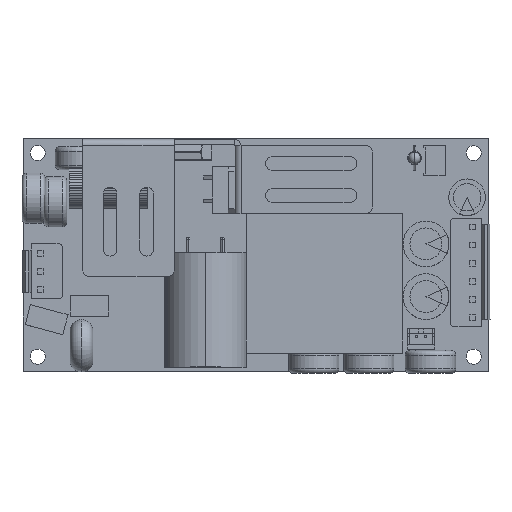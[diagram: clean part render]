
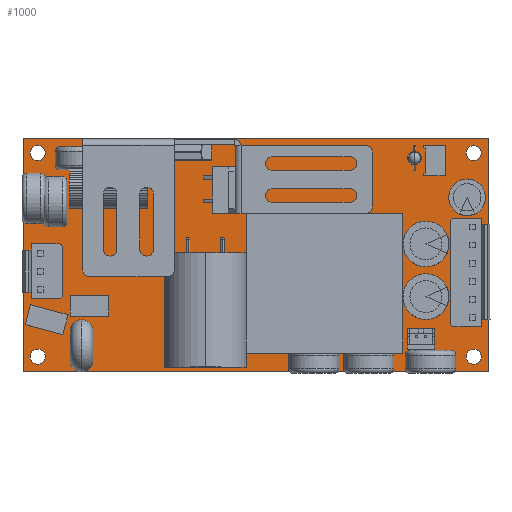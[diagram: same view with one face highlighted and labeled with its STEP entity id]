
A CAD part, top view. The second image highlights one B-rep face of the part: STEP entity #1000.
In plain terms, the highlighted planar face has unit normal (0, 0, 1).
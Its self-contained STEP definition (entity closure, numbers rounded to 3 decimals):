
#10=CARTESIAN_POINT('',(36.,11.225,
-1.6));
#20=DIRECTION('',(0.,0.,1.));
#30=DIRECTION('',(1.,0.,0.));
#40=AXIS2_PLACEMENT_3D('',#10,#20,#30);
#50=PLANE('',#40);
#60=CARTESIAN_POINT('',(10.449,-11.264,
-1.6));
#70=DIRECTION('',(0.,0.,1.));
#80=DIRECTION('',(1.,0.,0.));
#90=AXIS2_PLACEMENT_3D('',#60,#70,#80);
#100=CIRCLE('',#90,1.65);
#110=CARTESIAN_POINT('',(12.099,-11.264,
-1.6));
#120=VERTEX_POINT('',#110);
#130=CARTESIAN_POINT('',(8.799,-11.264,
-1.6));
#140=VERTEX_POINT('',#130);
#150=EDGE_CURVE('',#120,#140,#100,.T.);
#160=ORIENTED_EDGE('',*,*,#150,.F.);
#170=EDGE_CURVE('',#140,#120,#100,.T.);
#180=ORIENTED_EDGE('',*,*,#170,.F.);
#190=EDGE_LOOP('',(#180,#160));
#200=FACE_BOUND('',#190,.T.);
#210=CARTESIAN_POINT('',(105.699,33.186,
-1.6));
#220=DIRECTION('',(0.,0.,1.));
#230=DIRECTION('',(1.,0.,0.));
#240=AXIS2_PLACEMENT_3D('',#210,#220,#230);
#250=CIRCLE('',#240,1.65);
#260=CARTESIAN_POINT('',(107.349,33.186,
-1.6));
#270=VERTEX_POINT('',#260);
#280=CARTESIAN_POINT('',(104.049,33.186,
-1.6));
#290=VERTEX_POINT('',#280);
#300=EDGE_CURVE('',#270,#290,#250,.T.);
#310=ORIENTED_EDGE('',*,*,#300,.F.);
#320=EDGE_CURVE('',#290,#270,#250,.T.);
#330=ORIENTED_EDGE('',*,*,#320,.F.);
#340=EDGE_LOOP('',(#330,#310));
#350=FACE_BOUND('',#340,.T.);
#360=CARTESIAN_POINT('',(105.699,-11.264,
-1.6));
#370=DIRECTION('',(0.,0.,1.));
#380=DIRECTION('',(1.,0.,0.));
#390=AXIS2_PLACEMENT_3D('',#360,#370,#380);
#400=CIRCLE('',#390,1.65);
#410=CARTESIAN_POINT('',(107.349,-11.264,
-1.6));
#420=VERTEX_POINT('',#410);
#430=CARTESIAN_POINT('',(104.049,-11.264,
-1.6));
#440=VERTEX_POINT('',#430);
#450=EDGE_CURVE('',#420,#440,#400,.T.);
#460=ORIENTED_EDGE('',*,*,#450,.F.);
#470=EDGE_CURVE('',#440,#420,#400,.T.);
#480=ORIENTED_EDGE('',*,*,#470,.F.);
#490=EDGE_LOOP('',(#480,#460));
#500=FACE_BOUND('',#490,.T.);
#510=CARTESIAN_POINT('',(10.449,33.211,
-1.6));
#520=DIRECTION('',(0.,0.,1.));
#530=DIRECTION('',(1.,0.,0.));
#540=AXIS2_PLACEMENT_3D('',#510,#520,#530);
#550=CIRCLE('',#540,1.65);
#560=CARTESIAN_POINT('',(12.099,33.211,
-1.6));
#570=VERTEX_POINT('',#560);
#580=CARTESIAN_POINT('',(8.799,33.211,
-1.6));
#590=VERTEX_POINT('',#580);
#600=EDGE_CURVE('',#570,#590,#550,.T.);
#610=ORIENTED_EDGE('',*,*,#600,.F.);
#620=EDGE_CURVE('',#590,#570,#550,.T.);
#630=ORIENTED_EDGE('',*,*,#620,.F.);
#640=EDGE_LOOP('',(#630,#610));
#650=FACE_BOUND('',#640,.T.);
#660=CARTESIAN_POINT('',(7.274,-14.439,
-1.6));
#670=DIRECTION('',(0.,1.,0.));
#680=VECTOR('',#670,1.);
#690=LINE('',#660,#680);
#700=CARTESIAN_POINT('',(7.274,-14.439,
-1.6));
#710=VERTEX_POINT('',#700);
#720=CARTESIAN_POINT('',(7.274,36.361,
-1.6));
#730=VERTEX_POINT('',#720);
#740=EDGE_CURVE('',#710,#730,#690,.T.);
#750=ORIENTED_EDGE('',*,*,#740,.F.);
#760=CARTESIAN_POINT('',(7.274,36.361,
-1.6));
#770=DIRECTION('',(1.,0.,0.));
#780=VECTOR('',#770,1.);
#790=LINE('',#760,#780);
#800=CARTESIAN_POINT('',(108.874,36.361,
-1.6));
#810=VERTEX_POINT('',#800);
#820=EDGE_CURVE('',#730,#810,#790,.T.);
#830=ORIENTED_EDGE('',*,*,#820,.F.);
#840=CARTESIAN_POINT('',(108.874,36.361,
-1.6));
#850=DIRECTION('',(0.,-1.,0.));
#860=VECTOR('',#850,1.);
#870=LINE('',#840,#860);
#880=CARTESIAN_POINT('',(108.874,-14.439,
-1.6));
#890=VERTEX_POINT('',#880);
#900=EDGE_CURVE('',#810,#890,#870,.T.);
#910=ORIENTED_EDGE('',*,*,#900,.F.);
#920=CARTESIAN_POINT('',(108.874,-14.439,
-1.6));
#930=DIRECTION('',(-1.,0.,0.));
#940=VECTOR('',#930,1.);
#950=LINE('',#920,#940);
#960=EDGE_CURVE('',#890,#710,#950,.T.);
#970=ORIENTED_EDGE('',*,*,#960,.F.);
#980=EDGE_LOOP('',(#970,#910,#830,#750));
#990=FACE_OUTER_BOUND('',#980,.T.);
#1000=ADVANCED_FACE('',(#200,#350,#500,#650,#990),#50,.T.);
